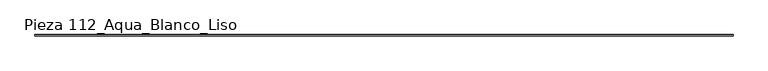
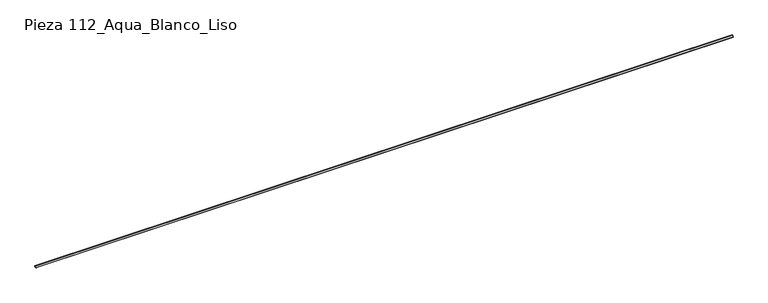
"""IFC4 building model written with IfcOpenShell, lengths in millimetres: slab geometry, ROSA GRES_112 : Pieza 112_Aqua_Blanco_Liso."""

import ifcopenshell
import ifcopenshell.guid

model = None  # the IFC model being written
_history = None  # IfcOwnerHistory: only IFC2X3 demands one
_inside = {}  # id of a spatial element -> (the spatial element, [elements in it])
_under = {}  # id of a project, library or spatial element -> (it, [spatial elements below it])
_declared = {}  # id of a project -> (the project, [libraries it declares])
_typed = {}  # id of a type object -> (the type object, [elements of that type])
_made_of = {}  # id of a material, layer set ... -> (it, [elements and type objects made of it])


def new_model(schema):
    """Start an empty IFC model of exactly this schema.

    Asked for "IFC4X3", IfcOpenShell would pick the latest addendum, in which some entities
    have other attributes; the version numbers below select the first issue.
    IFC2X3 requires an IfcOwnerHistory on every rooted entity: one is made here for all.
    """
    global model, _history
    if schema == "IFC4X3":
        model = ifcopenshell.file(schema_version=(4, 3, 0, 0))
    else:
        model = ifcopenshell.file(schema=schema)
    _inside.clear()
    _under.clear()
    _declared.clear()
    _typed.clear()
    _made_of.clear()
    _history = None
    if model.schema == "IFC2X3":
        org = make("IfcOrganization", Name="unknown")
        user = make(
            "IfcPersonAndOrganization",
            ThePerson=make("IfcPerson", FamilyName="unknown"),
            TheOrganization=org,
        )
        app = make(
            "IfcApplication",
            ApplicationDeveloper=org,
            Version="unknown",
            ApplicationFullName="unknown",
            ApplicationIdentifier="unknown",
        )
        _history = make(
            "IfcOwnerHistory",
            OwningUser=user,
            OwningApplication=app,
            ChangeAction="ADDED",
            CreationDate=0,
        )
    return model


def make(cls, **values):
    """One entity of the class cls with the attributes given. An attribute that is None is left unset."""
    return model.create_entity(
        cls, **{name: value for name, value in values.items() if value is not None}
    )


def rooted(cls, **values):
    """An entity with a GlobalId (a new one), such as an element, a storey or a relation."""
    return make(cls, GlobalId=ifcopenshell.guid.new(), OwnerHistory=_history, **values)


def si_unit(unit_type, name, prefix=None):
    """IfcSIUnit, for example si_unit("LENGTHUNIT", "METRE", prefix="MILLI")."""
    return make("IfcSIUnit", UnitType=unit_type, Prefix=prefix, Name=name)


def assignment(units):
    """IfcUnitAssignment: the units of a project."""
    return None if units is None else make("IfcUnitAssignment", Units=units)


def point(xyz):
    """IfcCartesianPoint."""
    return None if xyz is None else make("IfcCartesianPoint", Coordinates=xyz)


def direction(xyz):
    """IfcDirection."""
    return None if xyz is None else make("IfcDirection", DirectionRatios=xyz)


def frame(location, z_axis=None, x_axis=None):
    """IfcAxis2Placement3D, a coordinate frame: its origin and axes. An axis left out is left unset."""
    return make(
        "IfcAxis2Placement3D",
        Location=point(location),
        Axis=direction(z_axis),
        RefDirection=direction(x_axis),
    )


def frame_2d(location, x_axis=None):
    """IfcAxis2Placement2D, a coordinate frame in the plane: its origin and x axis."""
    return make(
        "IfcAxis2Placement2D", Location=point(location), RefDirection=direction(x_axis)
    )


def origin():
    """The frame at (0, 0, 0) with its axes left unset."""
    return frame((0.0, 0.0, 0.0))


def place(relative_to, where):
    """IfcLocalPlacement: puts the frame where relative to a parent placement (None: the world)."""
    return make(
        "IfcLocalPlacement", PlacementRelTo=relative_to, RelativePlacement=where
    )


def context(
    kind, dimensions, precision=None, world=None, true_north=None, identifier=None
):
    """IfcGeometricRepresentationContext, for example the 3D "Model" context."""
    return make(
        "IfcGeometricRepresentationContext",
        ContextIdentifier=identifier,
        ContextType=kind,
        CoordinateSpaceDimension=dimensions,
        Precision=precision,
        WorldCoordinateSystem=world,
        TrueNorth=true_north,
    )


def project(units=None, contexts=None):
    """IfcProject with its units and contexts."""
    return rooted(
        "IfcProject",
        Name="project",
        RepresentationContexts=contexts,
        UnitsInContext=assignment(units),
    )


def spatial(cls, under=None, at=None, **own):
    """A site, building, storey or space (cls), placed at a placement, below another one or the project."""
    s = rooted(cls, ObjectPlacement=at, **own)
    if under is not None:
        _under.setdefault(under.id(), (under, []))[1].append(s)
    return s


def polyline(points):
    """IfcPolyline through the points."""
    return make("IfcPolyline", Points=[point(p) for p in points])


def circle_curve(where, radius):
    """IfcCircle in the frame where."""
    return make("IfcCircle", Position=where, Radius=radius)


def trimmed(basis, trim1, trim2, sense, master):
    """IfcTrimmedCurve: the piece of a basis curve between two trims."""
    return make(
        "IfcTrimmedCurve",
        BasisCurve=basis,
        Trim1=trim1,
        Trim2=trim2,
        SenseAgreement=sense,
        MasterRepresentation=master,
    )


def segment(curve, same_sense, transition):
    """IfcCompositeCurveSegment."""
    return make(
        "IfcCompositeCurveSegment",
        Transition=transition,
        SameSense=same_sense,
        ParentCurve=curve,
    )


def composite_curve(segments, self_intersect=None):
    """IfcCompositeCurve: segments joined end to end."""
    return make("IfcCompositeCurve", Segments=segments, SelfIntersect=self_intersect)


def outline(outer, holes=None, kind="AREA"):
    """IfcArbitraryClosedProfileDef: a profile drawn as a closed curve; with holes, ...WithVoids."""
    if holes is None:
        return make("IfcArbitraryClosedProfileDef", ProfileType=kind, OuterCurve=outer)
    return make(
        "IfcArbitraryProfileDefWithVoids",
        ProfileType=kind,
        OuterCurve=outer,
        InnerCurves=holes,
    )


def extrude(swept, where, along, depth):
    """IfcExtrudedAreaSolid: the profile swept, set in the frame where, extruded along a direction by depth."""
    return make(
        "IfcExtrudedAreaSolid",
        SweptArea=swept,
        Position=where,
        ExtrudedDirection=direction(along),
        Depth=depth,
    )


def shape(context_of_items, identifier, shape_type, items):
    """IfcShapeRepresentation: the items that make up one representation, for example the "Body"."""
    return make(
        "IfcShapeRepresentation",
        ContextOfItems=context_of_items,
        RepresentationIdentifier=identifier,
        RepresentationType=shape_type,
        Items=items,
    )


def source(mapping_origin, context_of_items, identifier, shape_type, items):
    """IfcRepresentationMap: a shape defined once, which mapped items show again and again."""
    return make(
        "IfcRepresentationMap",
        MappingOrigin=mapping_origin,
        MappedRepresentation=shape(context_of_items, identifier, shape_type, items),
    )


def transform(
    local_origin,
    x_axis=None,
    y_axis=None,
    z_axis=None,
    scale=None,
    scale2=None,
    scale3=None,
    uniform=True,
):
    """IfcCartesianTransformationOperator3D, or its non-uniform kind. x_axis, y_axis, z_axis: its Axis1, 2, 3."""
    if uniform:
        return make(
            "IfcCartesianTransformationOperator3D",
            Axis1=direction(x_axis),
            Axis2=direction(y_axis),
            LocalOrigin=point(local_origin),
            Scale=scale,
            Axis3=direction(z_axis),
        )
    return make(
        "IfcCartesianTransformationOperator3DnonUniform",
        Axis1=direction(x_axis),
        Axis2=direction(y_axis),
        LocalOrigin=point(local_origin),
        Scale=scale,
        Axis3=direction(z_axis),
        Scale2=scale2,
        Scale3=scale3,
    )


def mapped(mapping_source, mapping_target):
    """IfcMappedItem: shows the shape of a source again, moved by a transform."""
    return make(
        "IfcMappedItem", MappingSource=mapping_source, MappingTarget=mapping_target
    )


def made_of(thing, what):
    """Note that an element or type object is made of a material, layer set ...; save() writes the relation."""
    if what is not None:
        _made_of.setdefault(what.id(), (what, []))[1].append(thing)
    return thing


def element(
    cls,
    number,
    at=None,
    inside=None,
    cuts=None,
    type_object=None,
    material=None,
    context=None,
    identifier="Body",
    shape_type=None,
    held_by="IfcProductDefinitionShape",
    body=None,
    shapes=None,
    **own,
):
    """One element of the class cls, such as IfcWall. Its Tag is "e" and its number.

    at: its placement. inside: the storey or other place that contains it. cuts: it is an
    opening in that element (IfcRelVoidsElement). A single representation is given by context,
    identifier, shape_type and body (its items); several are given by shapes. held_by: the class
    of the entity that holds the representations. save() writes the other relations.
    """
    e = rooted(cls, Tag="e%d" % number, ObjectPlacement=at, **own)
    if body is not None:
        shapes = [shape(context, identifier, shape_type, body)]
    if shapes is not None:
        e.Representation = make(held_by, Representations=shapes)
    if inside is not None:
        _inside.setdefault(inside.id(), (inside, []))[1].append(e)
    if cuts is not None:
        rooted(
            "IfcRelVoidsElement", RelatingBuildingElement=cuts, RelatedOpeningElement=e
        )
    if type_object is not None:
        _typed.setdefault(type_object.id(), (type_object, []))[1].append(e)
    return made_of(e, material)


def aggregate(whole, parts):
    """IfcRelAggregates: a whole, such as a stair, and the parts it consists of."""
    return rooted("IfcRelAggregates", RelatingObject=whole, RelatedObjects=parts)


def save(model, path):
    """Write the relations noted so far, then the file.

    IfcRelAggregates (storeys below a building ...), IfcRelContainedInSpatialStructure (elements
    in a storey), IfcRelDefinesByType, IfcRelAssociatesMaterial and IfcRelDeclares: one each for
    every whole, place, type object, material and project.
    """
    for whole, parts in _under.values():
        aggregate(whole, parts)
    for where, things in _inside.values():
        rooted(
            "IfcRelContainedInSpatialStructure",
            RelatedElements=things,
            RelatingStructure=where,
        )
    for kind, things in _typed.values():
        rooted("IfcRelDefinesByType", RelatedObjects=things, RelatingType=kind)
    for what, things in _made_of.values():
        rooted("IfcRelAssociatesMaterial", RelatedObjects=things, RelatingMaterial=what)
    for by, libraries in _declared.values():
        rooted("IfcRelDeclares", RelatingContext=by, RelatedDefinitions=libraries)
    model.write(path)


def pieza_112_aqua_blanco_liso_eb2f0002(model_context):
    return source(origin(), model_context, "Body", "SweptSolid", [
        extrude(outline(composite_curve([segment(polyline([(9.9734114, 8.7114978), (1.2619137, 0.0), (-30.0265886, 0.0), (-30.0265886, 9.9734114)]), True, "CONTINUOUS"), segment(trimmed(circle_curve(frame_2d((-30.0221432, 39.9955547)), 30.0221435), [point((-30.0265886, 9.9734114))], [point((0.0, 40.0))], True, "CARTESIAN"), True, "CONTINUOUS"), segment(polyline([(0.0, 40.0), (9.9734114, 40.0), (9.9734114, 8.7114978)]), True, "CONTINUOUS")], self_intersect=False)), frame((0.0, 0.0, 0.0), z_axis=(1.0, 0.0, 0.0), x_axis=(0.0, 1.0, 0.0)), (0.0, 0.0, 1.0), 20250.0),
    ])


if __name__ == "__main__":
    model = new_model("IFC4")
    model_context = context("Model", 3, world=origin())
    ifc_project = project(units=[si_unit("LENGTHUNIT", "METRE", prefix="MILLI")], contexts=[model_context])
    site = spatial("IfcSite", under=ifc_project)
    building = spatial("IfcBuilding", under=site)
    placement = place(None, origin())
    pieza_112_aqua_blanco_liso_shape = pieza_112_aqua_blanco_liso_eb2f0002(model_context)
    element("IfcSlab", 1, ObjectType="ROSA GRES_112 : Pieza 112_Aqua_Blanco_Liso", at=placement, inside=building, context=model_context, shape_type="MappedRepresentation", body=[
        mapped(pieza_112_aqua_blanco_liso_shape, transform((0.0, 0.0, 0.0), x_axis=(1.0, 0.0, 0.0), y_axis=(0.0, 1.0, 0.0), z_axis=(0.0, 0.0, 1.0))),
    ])
    save(model, "model.ifc")
